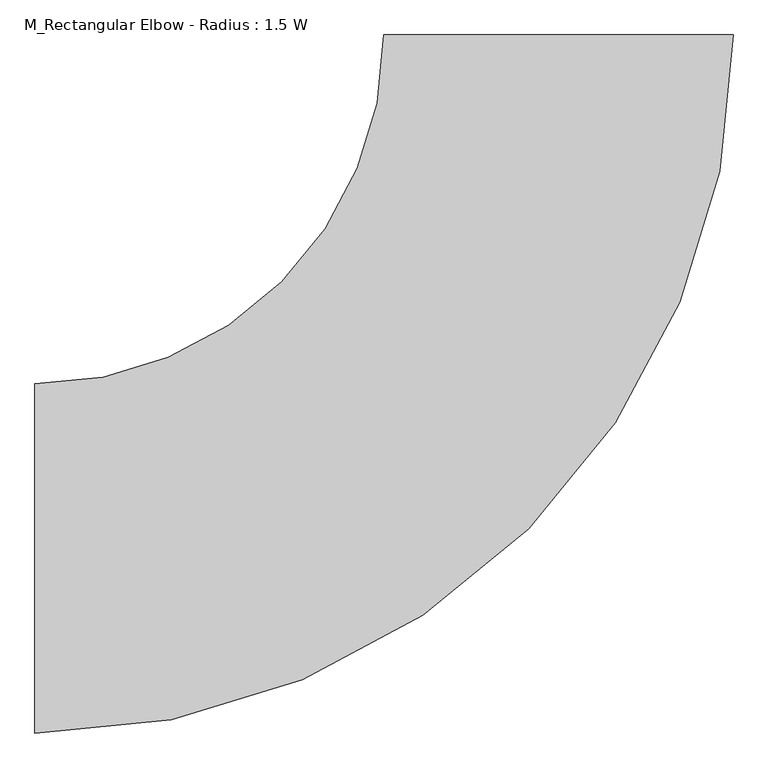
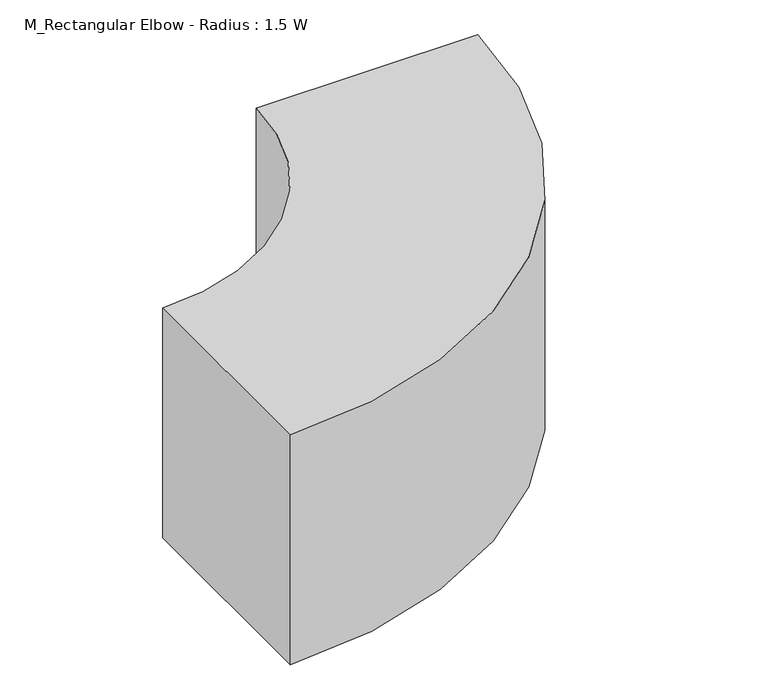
"""IFC4 building model written with IfcOpenShell, lengths in millimetres: duct fitting geometry, M_Rectangular Elbow - Radius : 1.5 W."""

from ifc_helpers import new_model, si_unit, point, frame, frame_2d, origin, place, context, project, spatial, polyline, circle_curve, trimmed, segment, composite_curve, outline, extrude, source, transform, mapped, element, save


def m_rectangular_elbow_radius_1_5_w_4bdb6d03(model_context):
    return source(origin(), model_context, "Body", "SweptSolid", [
        extrude(outline(composite_curve([segment(trimmed(circle_curve(frame_2d((-765.0, 765.0)), 1020.0), [point((255.0, 765.0))], [point((-765.0, -255.0))], False, "CARTESIAN"), True, "CONTINUOUS"), segment(polyline([(-765.0, -255.0), (-765.0, 255.0)]), True, "CONTINUOUS"), segment(trimmed(circle_curve(frame_2d((-765.0, 765.0)), 510.0), [point((-765.0, 255.0))], [point((-255.0, 765.0))], True, "CARTESIAN"), True, "CONTINUOUS"), segment(polyline([(-255.0, 765.0), (255.0, 765.0)]), True, "CONTINUOUS")], self_intersect=False)), frame((0.0, 0.0, -280.0), z_axis=(0.0, 0.0, 1.0), x_axis=(1.0, 0.0, 0.0)), (0.0, 0.0, 1.0), 560.0),
    ])


if __name__ == "__main__":
    model = new_model("IFC4")
    model_context = context("Model", 3, world=origin())
    ifc_project = project(units=[si_unit("LENGTHUNIT", "METRE", prefix="MILLI")], contexts=[model_context])
    site = spatial("IfcSite", under=ifc_project)
    building = spatial("IfcBuilding", under=site)
    placement = place(None, origin())
    m_rectangular_elbow_radius_1_5_w_shape = m_rectangular_elbow_radius_1_5_w_4bdb6d03(model_context)
    element("IfcDuctFitting", 1, ObjectType="M_Rectangular Elbow - Radius : 1.5 W", at=placement, inside=building, context=model_context, shape_type="MappedRepresentation", body=[
        mapped(m_rectangular_elbow_radius_1_5_w_shape, transform((0.0, 0.0, 0.0), x_axis=(1.0, 0.0, 0.0), y_axis=(0.0, 1.0, 0.0), z_axis=(0.0, 0.0, 1.0))),
    ])
    save(model, "model.ifc")
